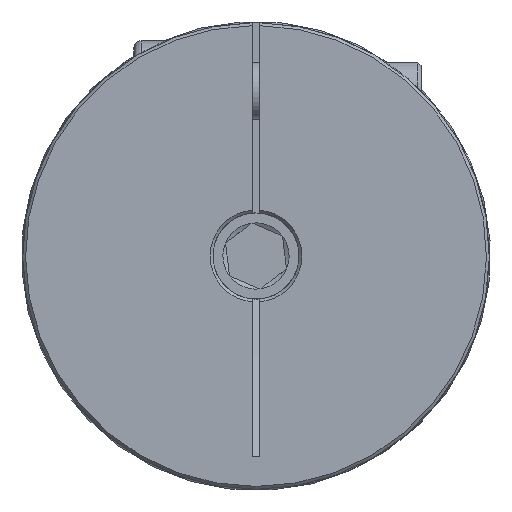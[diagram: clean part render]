
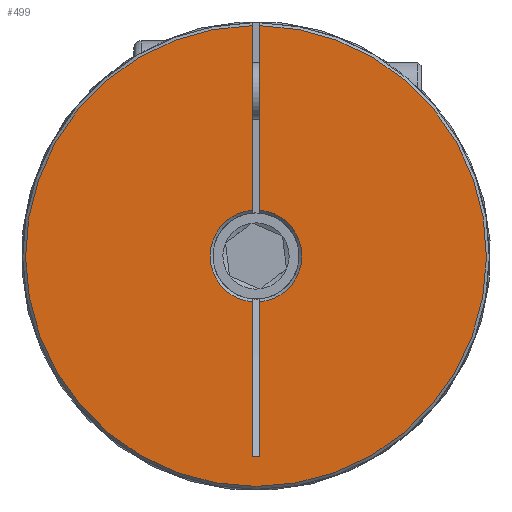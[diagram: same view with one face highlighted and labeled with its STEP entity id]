
A CAD part, left-side view. The second image highlights one B-rep face of the part: STEP entity #499.
In plain terms, the highlighted planar face has unit normal (-1, 0, 0).
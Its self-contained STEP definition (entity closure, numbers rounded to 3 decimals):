
#499 = ADVANCED_FACE( 'NONE', ( #1072 ), #1073, .F. );
#1072 = FACE_OUTER_BOUND( '', #1704, .T. );
#1073 = PLANE( '', #1705 );
#1704 = EDGE_LOOP( '', ( #2614, #2615, #2616, #2617, #2618, #2619, #2620, #2621 ) );
#1705 = AXIS2_PLACEMENT_3D( '', #2622, #2623, #2624 );
#2614 = ORIENTED_EDGE( '', *, *, #3280, .T. );
#2615 = ORIENTED_EDGE( '', *, *, #3241, .T. );
#2616 = ORIENTED_EDGE( '', *, *, #3281, .T. );
#2617 = ORIENTED_EDGE( '', *, *, #2990, .T. );
#2618 = ORIENTED_EDGE( '', *, *, #3153, .F. );
#2619 = ORIENTED_EDGE( '', *, *, #3282, .T. );
#2620 = ORIENTED_EDGE( '', *, *, #3104, .F. );
#2621 = ORIENTED_EDGE( '', *, *, #3069, .T. );
#2622 = CARTESIAN_POINT( '', ( 0., 16.25, 0. ) );
#2623 = DIRECTION( '', ( 1., 0., 0. ) );
#2624 = DIRECTION( '', ( 0., 1., 0. ) );
#2990 = EDGE_CURVE( 'NONE', #3382, #3380, #3383, .F. );
#3069 = EDGE_CURVE( 'NONE', #3500, #3504, #3506, .T. );
#3104 = EDGE_CURVE( 'NONE', #3500, #3558, #3559, .F. );
#3153 = EDGE_CURVE( 'NONE', #3626, #3380, #3628, .F. );
#3241 = EDGE_CURVE( 'NONE', #3756, #3753, #3757, .T. );
#3280 = EDGE_CURVE( 'NONE', #3504, #3756, #3804, .T. );
#3281 = EDGE_CURVE( 'NONE', #3753, #3382, #3805, .T. );
#3282 = EDGE_CURVE( 'NONE', #3626, #3558, #3806, .T. );
#3380 = VERTEX_POINT( 'NONE', #3928 );
#3382 = VERTEX_POINT( 'NONE', #3933 );
#3383 = CIRCLE( '', #3934, 16.05 );
#3500 = VERTEX_POINT( 'NONE', #4089 );
#3504 = VERTEX_POINT( 'NONE', #4097 );
#3506 = LINE( '', #4099, #4100 );
#3558 = VERTEX_POINT( 'NONE', #4160 );
#3559 = LINE( '', #4161, #4162 );
#3626 = VERTEX_POINT( 'NONE', #4247 );
#3628 = LINE( '', #4252, #4253 );
#3753 = VERTEX_POINT( 'NONE', #4517 );
#3756 = VERTEX_POINT( 'NONE', #4523 );
#3757 = CIRCLE( '', #4524, 3.2 );
#3804 = LINE( '', #4599, #4600 );
#3805 = LINE( '', #4601, #4602 );
#3806 = CIRCLE( '', #4603, 3.2 );
#3928 = CARTESIAN_POINT( '', ( 0., -0.25, 16.048 ) );
#3933 = CARTESIAN_POINT( '', ( 0., 0.25, 16.048 ) );
#3934 = AXIS2_PLACEMENT_3D( '', #4725, #4726, #4727 );
#4089 = CARTESIAN_POINT( '', ( 0., -0.25, -13.976 ) );
#4097 = CARTESIAN_POINT( '', ( 0., 0.25, -13.976 ) );
#4099 = CARTESIAN_POINT( '', ( 0., -0.25, -13.976 ) );
#4100 = VECTOR( '', #4850, 1000. );
#4160 = CARTESIAN_POINT( '', ( 0., -0.25, -3.19 ) );
#4161 = CARTESIAN_POINT( '', ( 0., -0.25, 7. ) );
#4162 = VECTOR( '', #4905, 1000. );
#4247 = CARTESIAN_POINT( '', ( 0., -0.25, 3.19 ) );
#4252 = CARTESIAN_POINT( '', ( 0., -0.25, 7. ) );
#4253 = VECTOR( '', #4972, 1000. );
#4517 = CARTESIAN_POINT( '', ( 0., 0.25, 3.19 ) );
#4523 = CARTESIAN_POINT( '', ( 0., 0.25, -3.19 ) );
#4524 = AXIS2_PLACEMENT_3D( '', #5089, #5090, #5091 );
#4599 = CARTESIAN_POINT( '', ( 0., 0.25, 0. ) );
#4600 = VECTOR( '', #5122, 1000. );
#4601 = CARTESIAN_POINT( '', ( 0., 0.25, 0. ) );
#4602 = VECTOR( '', #5123, 1000. );
#4603 = AXIS2_PLACEMENT_3D( '', #5124, #5125, #5126 );
#4725 = CARTESIAN_POINT( '', ( 0., 0., 0. ) );
#4726 = DIRECTION( '', ( 1., 0., 0. ) );
#4727 = DIRECTION( '', ( 0., 0., -1. ) );
#4850 = DIRECTION( '', ( 0., 1., 0. ) );
#4905 = DIRECTION( '', ( 0., 0., -1. ) );
#4972 = DIRECTION( '', ( 0., 0., -1. ) );
#5089 = CARTESIAN_POINT( '', ( 0., 0., 0. ) );
#5090 = DIRECTION( '', ( 1., 0., 0. ) );
#5091 = DIRECTION( '', ( 0., 0., -1. ) );
#5122 = DIRECTION( '', ( 0., 0., 1. ) );
#5123 = DIRECTION( '', ( 0., 0., 1. ) );
#5124 = CARTESIAN_POINT( '', ( 0., 0., 0. ) );
#5125 = DIRECTION( '', ( 1., 0., 0. ) );
#5126 = DIRECTION( '', ( 0., 0., -1. ) );
